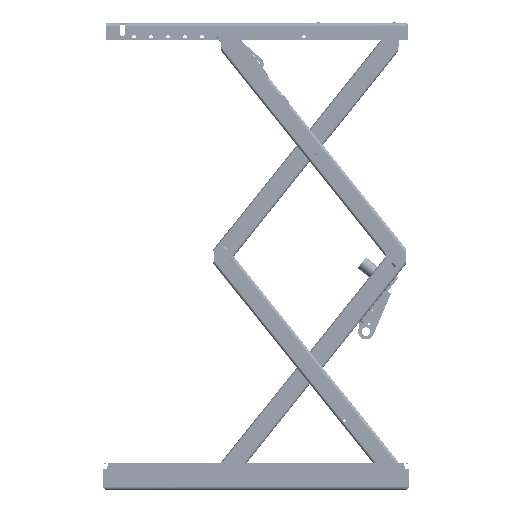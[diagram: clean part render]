
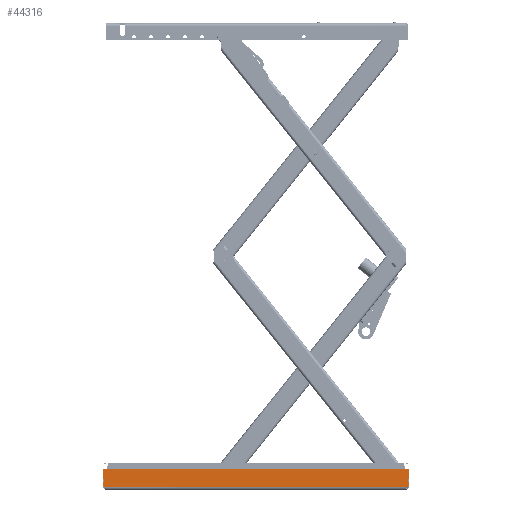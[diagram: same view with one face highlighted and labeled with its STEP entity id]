
A CAD part, left-side view. The second image highlights one B-rep face of the part: STEP entity #44316.
In plain terms, the highlighted planar face has unit normal (-1, 0, 0) as drawn and (1, 0, 0) by its records, which use the part's own axes.
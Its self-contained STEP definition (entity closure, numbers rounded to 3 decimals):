
#2256=PLANE('',#47399);
#4145=LINE('',#68887,#8176);
#4150=LINE('',#68959,#8181);
#4151=LINE('',#68961,#8182);
#4152=LINE('',#68963,#8183);
#4153=LINE('',#68971,#8184);
#4154=LINE('',#68975,#8185);
#4155=LINE('',#68976,#8186);
#4156=LINE('',#68977,#8187);
#8176=VECTOR('',#53564,1.872);
#8181=VECTOR('',#53571,23.534);
#8182=VECTOR('',#53572,900.);
#8183=VECTOR('',#53573,23.534);
#8184=VECTOR('',#53580,4.88);
#8185=VECTOR('',#53583,1.872);
#8186=VECTOR('',#53584,895.829);
#8187=VECTOR('',#53585,4.88);
#12364=FACE_OUTER_BOUND('',#15019,.T.);
#15019=EDGE_LOOP('',(#32799,#32800,#32801,#32802,#32803,#32804,#32805,#32806,
#32807,#32808,#32809,#32810,#32811,#32812,#32813,#32814));
#17753=CIRCLE('',#47388,1.);
#17755=CIRCLE('',#47391,38.539);
#17757=CIRCLE('',#47394,1.);
#17759=CIRCLE('',#47397,1.);
#17760=CIRCLE('',#47400,1.);
#17761=CIRCLE('',#47401,38.539);
#17762=CIRCLE('',#47402,1.);
#17763=CIRCLE('',#47403,1.);
#19993=VERTEX_POINT('',#68857);
#19994=VERTEX_POINT('',#68859);
#19996=VERTEX_POINT('',#68865);
#19998=VERTEX_POINT('',#68871);
#20001=VERTEX_POINT('',#68878);
#20002=VERTEX_POINT('',#68880);
#20004=VERTEX_POINT('',#68886);
#20010=VERTEX_POINT('',#68958);
#20011=VERTEX_POINT('',#68960);
#20012=VERTEX_POINT('',#68962);
#20013=VERTEX_POINT('',#68964);
#20014=VERTEX_POINT('',#68966);
#20015=VERTEX_POINT('',#68968);
#20016=VERTEX_POINT('',#68970);
#20017=VERTEX_POINT('',#68972);
#20018=VERTEX_POINT('',#68974);
#24837=EDGE_CURVE('',#19994,#19993,#17753,.T.);
#24840=EDGE_CURVE('',#19996,#19994,#17755,.T.);
#24843=EDGE_CURVE('',#19998,#19996,#17757,.T.);
#24847=EDGE_CURVE('',#20002,#20001,#17759,.T.);
#24850=EDGE_CURVE('',#20004,#20002,#4145,.T.);
#24859=EDGE_CURVE('',#20010,#19993,#4150,.T.);
#24860=EDGE_CURVE('',#20011,#20010,#4151,.T.);
#24861=EDGE_CURVE('',#20012,#20011,#4152,.T.);
#24862=EDGE_CURVE('',#20012,#20013,#17760,.T.);
#24863=EDGE_CURVE('',#20013,#20014,#17761,.T.);
#24864=EDGE_CURVE('',#20014,#20015,#17762,.T.);
#24865=EDGE_CURVE('',#20016,#20015,#4153,.T.);
#24866=EDGE_CURVE('',#20016,#20017,#17763,.T.);
#24867=EDGE_CURVE('',#20017,#20018,#4154,.T.);
#24868=EDGE_CURVE('',#20018,#20004,#4155,.T.);
#24869=EDGE_CURVE('',#19998,#20001,#4156,.T.);
#32799=ORIENTED_EDGE('',*,*,#24843,.T.);
#32800=ORIENTED_EDGE('',*,*,#24840,.T.);
#32801=ORIENTED_EDGE('',*,*,#24837,.T.);
#32802=ORIENTED_EDGE('',*,*,#24859,.F.);
#32803=ORIENTED_EDGE('',*,*,#24860,.F.);
#32804=ORIENTED_EDGE('',*,*,#24861,.F.);
#32805=ORIENTED_EDGE('',*,*,#24862,.T.);
#32806=ORIENTED_EDGE('',*,*,#24863,.T.);
#32807=ORIENTED_EDGE('',*,*,#24864,.T.);
#32808=ORIENTED_EDGE('',*,*,#24865,.F.);
#32809=ORIENTED_EDGE('',*,*,#24866,.T.);
#32810=ORIENTED_EDGE('',*,*,#24867,.T.);
#32811=ORIENTED_EDGE('',*,*,#24868,.T.);
#32812=ORIENTED_EDGE('',*,*,#24850,.T.);
#32813=ORIENTED_EDGE('',*,*,#24847,.T.);
#32814=ORIENTED_EDGE('',*,*,#24869,.F.);
#44316=ADVANCED_FACE('',(#12364),#2256,.T.);
#47388=AXIS2_PLACEMENT_3D('',#68860,#53536,#53537);
#47391=AXIS2_PLACEMENT_3D('',#68866,#53543,#53544);
#47394=AXIS2_PLACEMENT_3D('',#68872,#53550,#53551);
#47397=AXIS2_PLACEMENT_3D('',#68881,#53558,#53559);
#47399=AXIS2_PLACEMENT_3D('',#68957,#53569,#53570);
#47400=AXIS2_PLACEMENT_3D('',#68965,#53574,#53575);
#47401=AXIS2_PLACEMENT_3D('',#68967,#53576,#53577);
#47402=AXIS2_PLACEMENT_3D('',#68969,#53578,#53579);
#47403=AXIS2_PLACEMENT_3D('',#68973,#53581,#53582);
#53536=DIRECTION('center_axis',(1.,0.,0.));
#53537=DIRECTION('ref_axis',(0.,-0.967,0.256));
#53543=DIRECTION('center_axis',(-1.,0.,0.));
#53544=DIRECTION('ref_axis',(0.,-0.967,0.256));
#53550=DIRECTION('center_axis',(1.,0.,0.));
#53551=DIRECTION('ref_axis',(0.,-1.,0.));
#53558=DIRECTION('center_axis',(1.,0.,0.));
#53559=DIRECTION('ref_axis',(0.,-0.517,0.856));
#53564=DIRECTION('',(0.,-0.856,-0.517));
#53569=DIRECTION('center_axis',(1.,0.,0.));
#53570=DIRECTION('ref_axis',(0.,0.,-1.));
#53571=DIRECTION('',(0.,0.,1.));
#53572=DIRECTION('',(0.,-1.,0.));
#53573=DIRECTION('',(0.,0.,-1.));
#53574=DIRECTION('center_axis',(1.,0.,0.));
#53575=DIRECTION('ref_axis',(0.,0.967,0.256));
#53576=DIRECTION('center_axis',(-1.,0.,0.));
#53577=DIRECTION('ref_axis',(0.,0.967,0.256));
#53578=DIRECTION('center_axis',(1.,0.,0.));
#53579=DIRECTION('ref_axis',(0.,1.,0.));
#53580=DIRECTION('',(0.,0.,-1.));
#53581=DIRECTION('center_axis',(1.,0.,0.));
#53582=DIRECTION('ref_axis',(0.,0.517,0.856));
#53583=DIRECTION('',(0.,-0.856,0.517));
#53584=DIRECTION('',(0.,-1.,0.));
#53585=DIRECTION('',(0.,0.,1.));
#68857=CARTESIAN_POINT('',(350.,-450.,-31.966));
#68859=CARTESIAN_POINT('',(350.,-449.967,-31.709));
#68860=CARTESIAN_POINT('Origin',(350.,-449.,-31.966));
#68865=CARTESIAN_POINT('',(350.,-449.967,-11.96));
#68866=CARTESIAN_POINT('Origin',(350.,-487.219,-21.835));
#68871=CARTESIAN_POINT('',(350.,-450.,-11.703));
#68872=CARTESIAN_POINT('Origin',(350.,-449.,-11.703));
#68878=CARTESIAN_POINT('',(350.,-450.,-6.823));
#68880=CARTESIAN_POINT('',(350.,-449.517,-5.967));
#68881=CARTESIAN_POINT('Origin',(350.,-449.,-6.823));
#68886=CARTESIAN_POINT('',(350.,-447.915,-5.));
#68887=CARTESIAN_POINT('',(350.,-289.102,90.897));
#68957=CARTESIAN_POINT('Origin',(350.,0.,-25.355));
#68958=CARTESIAN_POINT('',(350.,-450.,-55.5));
#68959=CARTESIAN_POINT('',(350.,-450.,-5.));
#68960=CARTESIAN_POINT('',(350.,450.,-55.5));
#68961=CARTESIAN_POINT('',(350.,450.,-55.5));
#68962=CARTESIAN_POINT('',(350.,450.,-31.966));
#68963=CARTESIAN_POINT('',(350.,450.,-5.));
#68964=CARTESIAN_POINT('',(350.,449.967,-31.709));
#68965=CARTESIAN_POINT('Origin',(350.,449.,-31.966));
#68966=CARTESIAN_POINT('',(350.,449.967,-11.96));
#68967=CARTESIAN_POINT('Origin',(350.,487.219,-21.835));
#68968=CARTESIAN_POINT('',(350.,450.,-11.703));
#68969=CARTESIAN_POINT('Origin',(350.,449.,-11.703));
#68970=CARTESIAN_POINT('',(350.,450.,-6.823));
#68971=CARTESIAN_POINT('',(350.,450.,-5.));
#68972=CARTESIAN_POINT('',(350.,449.517,-5.967));
#68973=CARTESIAN_POINT('Origin',(350.,449.,-6.823));
#68974=CARTESIAN_POINT('',(350.,447.915,-5.));
#68975=CARTESIAN_POINT('',(350.,289.102,90.897));
#68976=CARTESIAN_POINT('',(350.,0.,-5.));
#68977=CARTESIAN_POINT('',(350.,-450.,-5.));
